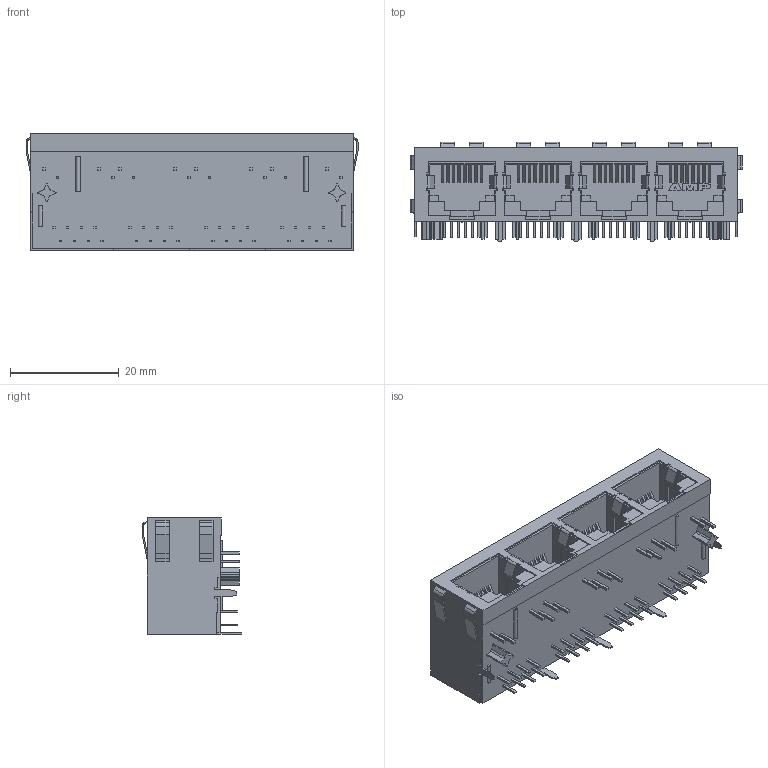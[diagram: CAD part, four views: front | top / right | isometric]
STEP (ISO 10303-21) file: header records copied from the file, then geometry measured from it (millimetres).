
FILE_DESCRIPTION((''),'2;1');
FILE_NAME('C-6116125-4','2009-03-16T',('workeradm'),('Tyco Electronics Corporation'),'PRO/ENGINEER BY PARAMETRIC TECHNOLOGY CORPORATION, 2007390','PRO/ENGINEER BY PARAMETRIC TECHNOLOGY CORPORATION, 2007390','');
FILE_SCHEMA(('AUTOMOTIVE_DESIGN { 1 0 10303 214 1 1 1 1 }'));
Length unit declared in the file: millimetre
Products named in the file (1): C-6116125-4
Bounding box: 61.01 x 18.31 x 21.34 mm (x, y, z)
Volume: 12779 mm3; surface area: 7954.1 mm2
Topology: 1 solids, 1 shells, 916 faces, 2525 edges, 1674 vertices
Faces by surface type: plane 841, cylinder 65, extrusion 10
Entity records: 28974 total; most frequent: CARTESIAN_POINT 5216, ORIENTED_EDGE 5050, DIRECTION 4473, EDGE_CURVE 2525, VECTOR 2385, LINE 2375, VERTEX_POINT 1674, EDGE_LOOP 1067
